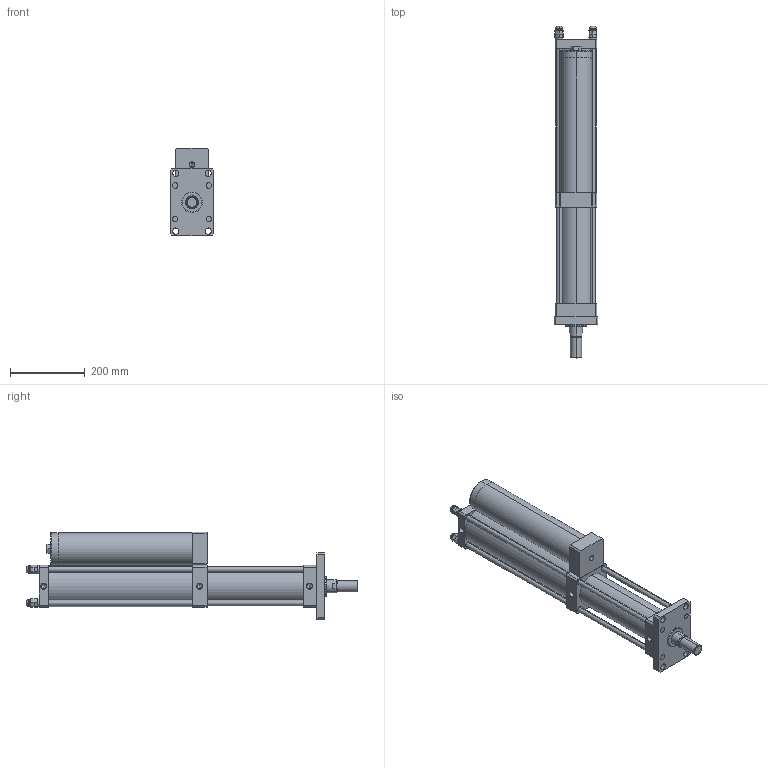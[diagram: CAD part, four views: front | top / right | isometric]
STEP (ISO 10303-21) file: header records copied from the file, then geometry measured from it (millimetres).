
FILE_DESCRIPTION (( 'STEP AP203' ), '1' );
FILE_NAME ('MPT-80-200-20-8T.STEP', '2016-03-26T05:22:06', ( 'WIN' ), ( '' ), 'SwSTEP 2.0', 'SolidWorks 2014', '' );
FILE_SCHEMA (( 'CONFIG_CONTROL_DESIGN' ));
Length unit declared in the file: millimetre
Products named in the file (1): MPT-80-200-20-8T
Bounding box: 118 x 891.01 x 235 mm (x, y, z)
Volume: 8116060.5 mm3; surface area: 854987.6 mm2
Topology: 20 solids, 20 shells, 400 faces, 968 edges, 562 vertices
Faces by surface type: plane 187, cylinder 90, torus 48, bspline 48, cone 27
Entity records: 12732 total; most frequent: CARTESIAN_POINT 3707, DIRECTION 1901, ORIENTED_EDGE 1804, EDGE_CURVE 902, AXIS2_PLACEMENT_3D 700, VERTEX_POINT 562, LINE 501, VECTOR 501
